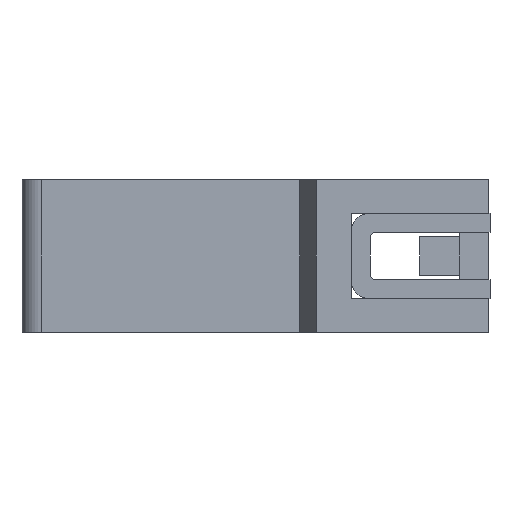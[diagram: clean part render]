
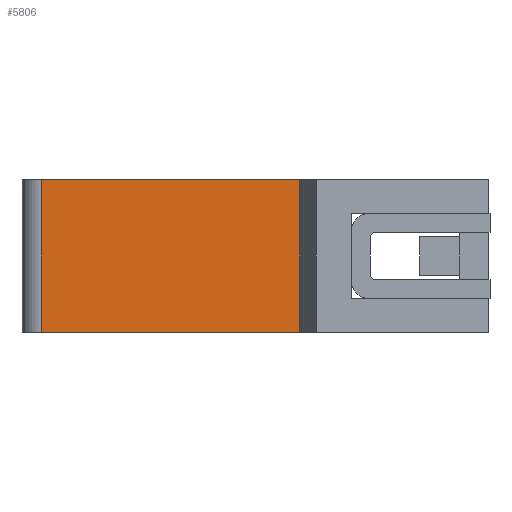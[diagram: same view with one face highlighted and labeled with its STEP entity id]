
A CAD part, left-side view. The second image highlights one B-rep face of the part: STEP entity #5806.
In plain terms, the highlighted planar face has unit normal (-1, 0, 0).
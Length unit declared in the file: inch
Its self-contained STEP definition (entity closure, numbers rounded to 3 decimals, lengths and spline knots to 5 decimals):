
#2244=DIRECTION('',(0.,-1.,0.));
#2245=VECTOR('',#2244,0.53543);
#2246=CARTESIAN_POINT('',(-0.47244,0.82677,
0.31496));
#2247=LINE('',#2246,#2245);
#2248=DIRECTION('',(0.,0.,-1.));
#2249=VECTOR('',#2248,0.31496);
#2250=CARTESIAN_POINT('',(-0.47244,0.29134,
0.31496));
#2251=LINE('',#2250,#2249);
#2252=DIRECTION('',(0.,1.,0.));
#2253=VECTOR('',#2252,0.53543);
#2254=CARTESIAN_POINT('',(-0.47244,0.29134,0.));
#2255=LINE('',#2254,#2253);
#2260=DIRECTION('',(0.,0.,-1.));
#2261=VECTOR('',#2260,0.31496);
#2262=CARTESIAN_POINT('',(-0.47244,0.82677,
0.31496));
#2263=LINE('',#2262,#2261);
#2356=CARTESIAN_POINT('',(-0.47244,0.82677,0.));
#2357=VERTEX_POINT('',#2356);
#2358=CARTESIAN_POINT('',(-0.47244,0.29134,0.));
#2359=VERTEX_POINT('',#2358);
#2800=CARTESIAN_POINT('',(-0.47244,0.29134,
0.31496));
#2801=VERTEX_POINT('',#2800);
#2802=CARTESIAN_POINT('',(-0.47244,0.82677,
0.31496));
#2803=VERTEX_POINT('',#2802);
#5794=CARTESIAN_POINT('',(-0.47244,0.55906,
0.15748));
#5795=DIRECTION('',(1.,0.,0.));
#5796=DIRECTION('',(0.,-1.,0.));
#5797=AXIS2_PLACEMENT_3D('',#5794,#5795,#5796);
#5798=PLANE('',#5797);
#5800=ORIENTED_EDGE('',*,*,#5799,.F.);
#5801=ORIENTED_EDGE('',*,*,#4465,.T.);
#5802=ORIENTED_EDGE('',*,*,#5787,.T.);
#5803=ORIENTED_EDGE('',*,*,#3055,.T.);
#5804=EDGE_LOOP('',(#5800,#5801,#5802,#5803));
#5805=FACE_OUTER_BOUND('',#5804,.F.);
#5806=ADVANCED_FACE('',(#5805),#5798,.F.);
#3055=EDGE_CURVE('',#2359,#2357,#2255,.T.);
#4465=EDGE_CURVE('',#2803,#2801,#2247,.T.);
#5787=EDGE_CURVE('',#2801,#2359,#2251,.T.);
#5799=EDGE_CURVE('',#2803,#2357,#2263,.T.);
